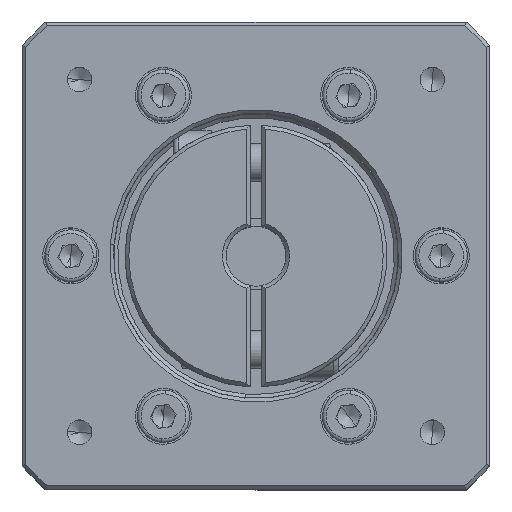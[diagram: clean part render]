
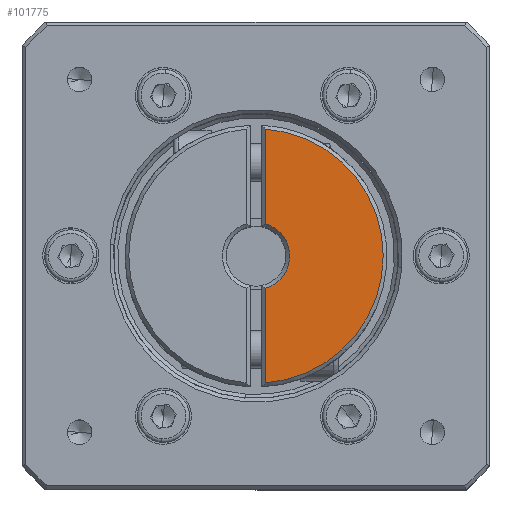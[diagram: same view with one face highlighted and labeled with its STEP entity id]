
A CAD part, top view. The second image highlights one B-rep face of the part: STEP entity #101775.
In plain terms, the highlighted planar face has unit normal (0, 0, 1).
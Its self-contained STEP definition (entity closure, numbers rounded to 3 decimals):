
#1872 = FACE_OUTER_BOUND ( 'NONE', #60629, .T. ) ;
#2019 = DIRECTION ( 'NONE',  ( -0.078, -0.997, 0. ) ) ;
#3472 = CARTESIAN_POINT ( 'NONE',  ( -95.138, 43., 17.277 ) ) ;
#12043 = DIRECTION ( 'NONE',  ( 0.078, 0.997, 0. ) ) ;
#14154 = VECTOR ( 'NONE', #84566, 1000. ) ;
#14397 = ORIENTED_EDGE ( 'NONE', *, *, #24900, .F. ) ;
#24900 = EDGE_CURVE ( 'NONE', #77319, #110055, #61332, .T. ) ;
#34172 = ORIENTED_EDGE ( 'NONE', *, *, #52353, .T. ) ;
#35552 = CARTESIAN_POINT ( 'NONE',  ( -95.138, 25.5, 17.277 ) ) ;
#36638 = AXIS2_PLACEMENT_3D ( 'NONE', #35552, #95196, #44132 ) ;
#42677 = DIRECTION ( 'NONE',  ( 0., -1., 0. ) ) ;
#44132 = DIRECTION ( 'NONE',  ( 0.997, -0.078, 0. ) ) ;
#45107 = CIRCLE ( 'NONE', #92456, 4.5 ) ;
#51861 = VECTOR ( 'NONE', #42677, 1000. ) ;
#52353 = EDGE_CURVE ( 'NONE', #77319, #63890, #59488, .T. ) ;
#53109 = DIRECTION ( 'NONE',  ( 0., 0., -1. ) ) ;
#59488 = LINE ( 'NONE', #92394, #14154 ) ;
#60629 = EDGE_LOOP ( 'NONE', ( #14397, #34172, #60936, #92805 ) ) ;
#60936 = ORIENTED_EDGE ( 'NONE', *, *, #78805, .F. ) ;
#61332 = CIRCLE ( 'NONE', #75600, 17. ) ;
#62283 = VERTEX_POINT ( 'NONE', #109439 ) ;
#63093 = DIRECTION ( 'NONE',  ( 0., 0., 1. ) ) ;
#63890 = VERTEX_POINT ( 'NONE', #91640 ) ;
#64700 = CARTESIAN_POINT ( 'NONE',  ( -93.888, 59.954, 17.277 ) ) ;
#74546 = LINE ( 'NONE', #92969, #51861 ) ;
#75600 = AXIS2_PLACEMENT_3D ( 'NONE', #104113, #53109, #2019 ) ;
#77319 = VERTEX_POINT ( 'NONE', #64700 ) ;
#78673 = EDGE_CURVE ( 'NONE', #62283, #110055, #74546, .T. ) ;
#78805 = EDGE_CURVE ( 'NONE', #62283, #63890, #45107, .T. ) ;
#79206 = CARTESIAN_POINT ( 'NONE',  ( -93.888, 26.046, 17.277 ) ) ;
#84566 = DIRECTION ( 'NONE',  ( 0., -1., 0. ) ) ;
#91640 = CARTESIAN_POINT ( 'NONE',  ( -93.888, 47.322, 17.277 ) ) ;
#92394 = CARTESIAN_POINT ( 'NONE',  ( -93.888, 59.954, 17.277 ) ) ;
#92456 = AXIS2_PLACEMENT_3D ( 'NONE', #3472, #63093, #12043 ) ;
#92805 = ORIENTED_EDGE ( 'NONE', *, *, #78673, .T. ) ;
#92969 = CARTESIAN_POINT ( 'NONE',  ( -93.888, 38.677, 17.277 ) ) ;
#93353 = PLANE ( 'NONE',  #36638 ) ;
#95196 = DIRECTION ( 'NONE',  ( 0., 0., -1. ) ) ;
#101775 = ADVANCED_FACE ( 'NONE', ( #1872 ), #93353, .F. ) ;
#104113 = CARTESIAN_POINT ( 'NONE',  ( -95.138, 43., 17.277 ) ) ;
#109439 = CARTESIAN_POINT ( 'NONE',  ( -93.888, 38.677, 17.277 ) ) ;
#110055 = VERTEX_POINT ( 'NONE', #79206 ) ;
